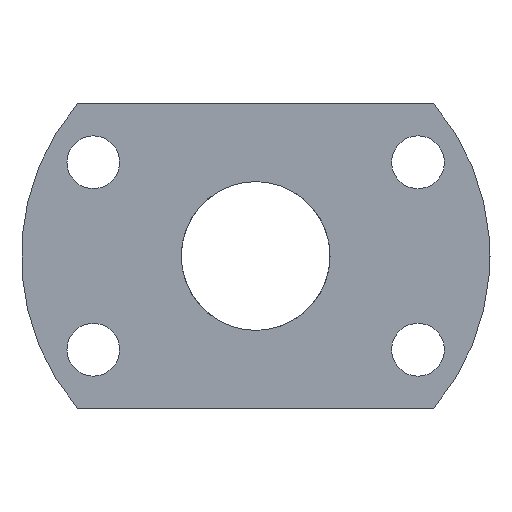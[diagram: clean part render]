
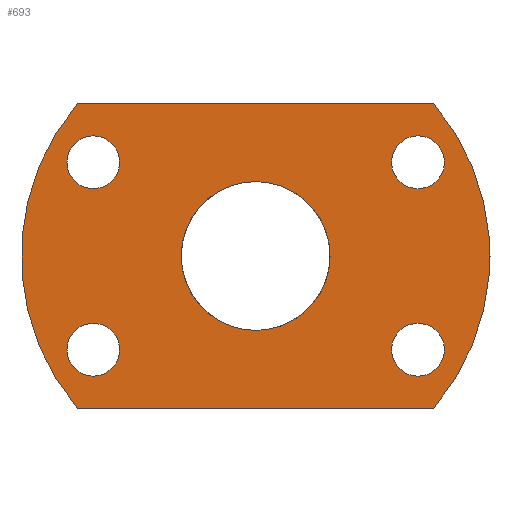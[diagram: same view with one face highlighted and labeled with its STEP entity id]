
A CAD part, left-side view. The second image highlights one B-rep face of the part: STEP entity #693.
In plain terms, the highlighted planar face has unit normal (-1, 0, 0).
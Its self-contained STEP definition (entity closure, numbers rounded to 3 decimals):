
#29 = FACE_BOUND ( 'NONE', #730, .T. ) ;
#37 = AXIS2_PLACEMENT_3D ( 'NONE', #2238, #1165, #93 ) ;
#54 = CIRCLE ( 'NONE', #1235, 2.25 ) ;
#56 = CARTESIAN_POINT ( 'NONE',  ( -53.695, 15.199, 13. ) ) ;
#69 = EDGE_LOOP ( 'NONE', ( #1868, #106 ) ) ;
#82 = FACE_BOUND ( 'NONE', #533, .T. ) ;
#93 = DIRECTION ( 'NONE',  ( 0., 0., 1. ) ) ;
#106 = ORIENTED_EDGE ( 'NONE', *, *, #675, .F. ) ;
#107 = AXIS2_PLACEMENT_3D ( 'NONE', #2302, #1228, #161 ) ;
#136 = CIRCLE ( 'NONE', #1741, 2.25 ) ;
#137 = DIRECTION ( 'NONE',  ( 0., 0., 1. ) ) ;
#151 = ORIENTED_EDGE ( 'NONE', *, *, #2161, .T. ) ;
#161 = DIRECTION ( 'NONE',  ( 0., 0., 1. ) ) ;
#168 = CARTESIAN_POINT ( 'NONE',  ( -53.695, 19.327, 13. ) ) ;
#202 = CARTESIAN_POINT ( 'NONE',  ( -53.695, 19.327, -13. ) ) ;
#206 = VERTEX_POINT ( 'NONE', #1826 ) ;
#227 = AXIS2_PLACEMENT_3D ( 'NONE', #2277, #1205, #137 ) ;
#234 = VERTEX_POINT ( 'NONE', #56 ) ;
#235 = CARTESIAN_POINT ( 'NONE',  ( -53.695, 13.856, 8. ) ) ;
#262 = DIRECTION ( 'NONE',  ( -1., 0., 0. ) ) ;
#289 = CARTESIAN_POINT ( 'NONE',  ( -53.695, -15.199, -13. ) ) ;
#310 = CIRCLE ( 'NONE', #1666, 6.35 ) ;
#313 = DIRECTION ( 'NONE',  ( -1., 0., 0. ) ) ;
#321 = EDGE_CURVE ( 'NONE', #2100, #1108, #1422, .T. ) ;
#326 = ORIENTED_EDGE ( 'NONE', *, *, #1317, .T. ) ;
#343 = CARTESIAN_POINT ( 'NONE',  ( -53.695, 13.856, 10.25 ) ) ;
#366 = CARTESIAN_POINT ( 'NONE',  ( -53.695, -13.856, 8. ) ) ;
#394 = EDGE_CURVE ( 'NONE', #1108, #2100, #1785, .T. ) ;
#410 = DIRECTION ( 'NONE',  ( 0., 0., 1. ) ) ;
#443 = DIRECTION ( 'NONE',  ( 1., 0., 0. ) ) ;
#476 = CARTESIAN_POINT ( 'NONE',  ( -53.695, 13.856, -5.75 ) ) ;
#479 = CARTESIAN_POINT ( 'NONE',  ( -53.695, -13.856, -5.75 ) ) ;
#480 = EDGE_CURVE ( 'NONE', #1216, #206, #1247, .T. ) ;
#487 = ORIENTED_EDGE ( 'NONE', *, *, #321, .F. ) ;
#525 = DIRECTION ( 'NONE',  ( -1., 0., 0. ) ) ;
#533 = EDGE_LOOP ( 'NONE', ( #934, #487 ) ) ;
#541 = DIRECTION ( 'NONE',  ( 0., 0., 1. ) ) ;
#561 = CIRCLE ( 'NONE', #107, 2.25 ) ;
#572 = AXIS2_PLACEMENT_3D ( 'NONE', #1888, #810, #2077 ) ;
#573 = CIRCLE ( 'NONE', #1892, 2.25 ) ;
#606 = DIRECTION ( 'NONE',  ( -1., 0., 0. ) ) ;
#617 = CARTESIAN_POINT ( 'NONE',  ( -53.695, -13.856, -8. ) ) ;
#619 = AXIS2_PLACEMENT_3D ( 'NONE', #1382, #313, #1565 ) ;
#675 = EDGE_CURVE ( 'NONE', #1536, #1303, #136, .T. ) ;
#683 = ORIENTED_EDGE ( 'NONE', *, *, #1372, .F. ) ;
#693 = ADVANCED_FACE ( 'NONE', ( #1445, #29, #82, #1872, #1395, #1339 ), #1158, .F. ) ;
#725 = DIRECTION ( 'NONE',  ( 0., 0., 1. ) ) ;
#730 = EDGE_LOOP ( 'NONE', ( #1394, #1957 ) ) ;
#791 = EDGE_CURVE ( 'NONE', #928, #1805, #806, .T. ) ;
#793 = CARTESIAN_POINT ( 'NONE',  ( -53.695, 20., 0. ) ) ;
#803 = DIRECTION ( 'NONE',  ( 0., 0., 1. ) ) ;
#806 = CIRCLE ( 'NONE', #2167, 2.25 ) ;
#810 = DIRECTION ( 'NONE',  ( -1., 0., 0. ) ) ;
#832 = EDGE_LOOP ( 'NONE', ( #1442, #1037 ) ) ;
#838 = EDGE_CURVE ( 'NONE', #1467, #2150, #1638, .T. ) ;
#896 = AXIS2_PLACEMENT_3D ( 'NONE', #366, #1618, #541 ) ;
#928 = VERTEX_POINT ( 'NONE', #2298 ) ;
#934 = ORIENTED_EDGE ( 'NONE', *, *, #394, .F. ) ;
#939 = AXIS2_PLACEMENT_3D ( 'NONE', #1602, #525, #1787 ) ;
#949 = CARTESIAN_POINT ( 'NONE',  ( -53.695, -13.856, 10.25 ) ) ;
#968 = ORIENTED_EDGE ( 'NONE', *, *, #480, .F. ) ;
#973 = CIRCLE ( 'NONE', #939, 20. ) ;
#978 = CARTESIAN_POINT ( 'NONE',  ( -53.695, 0., 6.35 ) ) ;
#1035 = EDGE_CURVE ( 'NONE', #2150, #1467, #573, .T. ) ;
#1037 = ORIENTED_EDGE ( 'NONE', *, *, #838, .F. ) ;
#1099 = VERTEX_POINT ( 'NONE', #1304 ) ;
#1108 = VERTEX_POINT ( 'NONE', #949 ) ;
#1124 = EDGE_CURVE ( 'NONE', #1805, #928, #54, .T. ) ;
#1158 = PLANE ( 'NONE',  #2284 ) ;
#1165 = DIRECTION ( 'NONE',  ( -1., 0., 0. ) ) ;
#1205 = DIRECTION ( 'NONE',  ( -1., 0., 0. ) ) ;
#1214 = CARTESIAN_POINT ( 'NONE',  ( -53.695, -15.199, 13. ) ) ;
#1216 = VERTEX_POINT ( 'NONE', #289 ) ;
#1228 = DIRECTION ( 'NONE',  ( -1., 0., 0. ) ) ;
#1234 = DIRECTION ( 'NONE',  ( 0., -1., 0. ) ) ;
#1235 = AXIS2_PLACEMENT_3D ( 'NONE', #1678, #606, #1863 ) ;
#1247 = LINE ( 'NONE', #202, #1664 ) ;
#1297 = ORIENTED_EDGE ( 'NONE', *, *, #1794, .F. ) ;
#1303 = VERTEX_POINT ( 'NONE', #476 ) ;
#1304 = CARTESIAN_POINT ( 'NONE',  ( -53.695, 0., -6.35 ) ) ;
#1317 = EDGE_CURVE ( 'NONE', #1216, #2044, #2107, .T. ) ;
#1339 = FACE_OUTER_BOUND ( 'NONE', #1782, .T. ) ;
#1340 = CARTESIAN_POINT ( 'NONE',  ( -53.695, 13.856, -8. ) ) ;
#1372 = EDGE_CURVE ( 'NONE', #1099, #1652, #310, .T. ) ;
#1382 = CARTESIAN_POINT ( 'NONE',  ( -53.695, 0., 0. ) ) ;
#1394 = ORIENTED_EDGE ( 'NONE', *, *, #1124, .F. ) ;
#1395 = FACE_BOUND ( 'NONE', #2101, .T. ) ;
#1422 = CIRCLE ( 'NONE', #572, 2.25 ) ;
#1442 = ORIENTED_EDGE ( 'NONE', *, *, #1035, .F. ) ;
#1445 = FACE_BOUND ( 'NONE', #69, .T. ) ;
#1467 = VERTEX_POINT ( 'NONE', #2011 ) ;
#1478 = CARTESIAN_POINT ( 'NONE',  ( -53.695, 13.856, -10.25 ) ) ;
#1486 = DIRECTION ( 'NONE',  ( -1., 0., 0. ) ) ;
#1516 = DIRECTION ( 'NONE',  ( 0., 0., 1. ) ) ;
#1536 = VERTEX_POINT ( 'NONE', #1478 ) ;
#1564 = ORIENTED_EDGE ( 'NONE', *, *, #1930, .F. ) ;
#1565 = DIRECTION ( 'NONE',  ( 0., 0., 1. ) ) ;
#1575 = CARTESIAN_POINT ( 'NONE',  ( -53.695, -13.856, 5.75 ) ) ;
#1602 = CARTESIAN_POINT ( 'NONE',  ( -53.695, 0., 0. ) ) ;
#1618 = DIRECTION ( 'NONE',  ( -1., 0., 0. ) ) ;
#1632 = VECTOR ( 'NONE', #1234, 1000. ) ;
#1638 = CIRCLE ( 'NONE', #37, 2.25 ) ;
#1652 = VERTEX_POINT ( 'NONE', #978 ) ;
#1664 = VECTOR ( 'NONE', #2186, 1000. ) ;
#1666 = AXIS2_PLACEMENT_3D ( 'NONE', #1675, #1800, #725 ) ;
#1675 = CARTESIAN_POINT ( 'NONE',  ( -53.695, 0., 0. ) ) ;
#1678 = CARTESIAN_POINT ( 'NONE',  ( -53.695, -13.856, -8. ) ) ;
#1697 = DIRECTION ( 'NONE',  ( 0., 0., -1. ) ) ;
#1741 = AXIS2_PLACEMENT_3D ( 'NONE', #1340, #262, #1516 ) ;
#1782 = EDGE_LOOP ( 'NONE', ( #151, #968, #326, #1564 ) ) ;
#1785 = CIRCLE ( 'NONE', #896, 2.25 ) ;
#1787 = DIRECTION ( 'NONE',  ( 0., 0., 1. ) ) ;
#1794 = EDGE_CURVE ( 'NONE', #1652, #1099, #2133, .T. ) ;
#1800 = DIRECTION ( 'NONE',  ( -1., 0., 0. ) ) ;
#1805 = VERTEX_POINT ( 'NONE', #479 ) ;
#1826 = CARTESIAN_POINT ( 'NONE',  ( -53.695, 15.199, -13. ) ) ;
#1863 = DIRECTION ( 'NONE',  ( 0., 0., 1. ) ) ;
#1868 = ORIENTED_EDGE ( 'NONE', *, *, #2096, .F. ) ;
#1872 = FACE_BOUND ( 'NONE', #832, .T. ) ;
#1879 = DIRECTION ( 'NONE',  ( -1., 0., 0. ) ) ;
#1888 = CARTESIAN_POINT ( 'NONE',  ( -53.695, -13.856, 8. ) ) ;
#1892 = AXIS2_PLACEMENT_3D ( 'NONE', #235, #1486, #410 ) ;
#1930 = EDGE_CURVE ( 'NONE', #234, #2044, #1933, .T. ) ;
#1933 = LINE ( 'NONE', #168, #1632 ) ;
#1957 = ORIENTED_EDGE ( 'NONE', *, *, #791, .F. ) ;
#2011 = CARTESIAN_POINT ( 'NONE',  ( -53.695, 13.856, 5.75 ) ) ;
#2044 = VERTEX_POINT ( 'NONE', #1214 ) ;
#2077 = DIRECTION ( 'NONE',  ( 0., 0., 1. ) ) ;
#2096 = EDGE_CURVE ( 'NONE', #1303, #1536, #561, .T. ) ;
#2100 = VERTEX_POINT ( 'NONE', #1575 ) ;
#2101 = EDGE_LOOP ( 'NONE', ( #1297, #683 ) ) ;
#2107 = CIRCLE ( 'NONE', #227, 20. ) ;
#2133 = CIRCLE ( 'NONE', #619, 6.35 ) ;
#2150 = VERTEX_POINT ( 'NONE', #343 ) ;
#2161 = EDGE_CURVE ( 'NONE', #234, #206, #973, .T. ) ;
#2167 = AXIS2_PLACEMENT_3D ( 'NONE', #617, #1879, #803 ) ;
#2186 = DIRECTION ( 'NONE',  ( 0., 1., 0. ) ) ;
#2238 = CARTESIAN_POINT ( 'NONE',  ( -53.695, 13.856, 8. ) ) ;
#2277 = CARTESIAN_POINT ( 'NONE',  ( -53.695, 0., 0. ) ) ;
#2284 = AXIS2_PLACEMENT_3D ( 'NONE', #793, #443, #1697 ) ;
#2298 = CARTESIAN_POINT ( 'NONE',  ( -53.695, -13.856, -10.25 ) ) ;
#2302 = CARTESIAN_POINT ( 'NONE',  ( -53.695, 13.856, -8. ) ) ;
